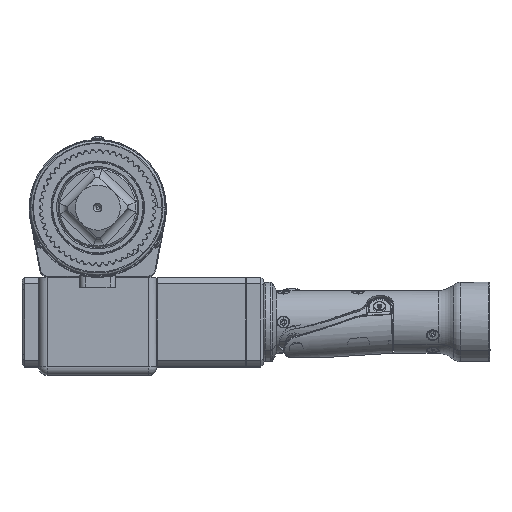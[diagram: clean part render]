
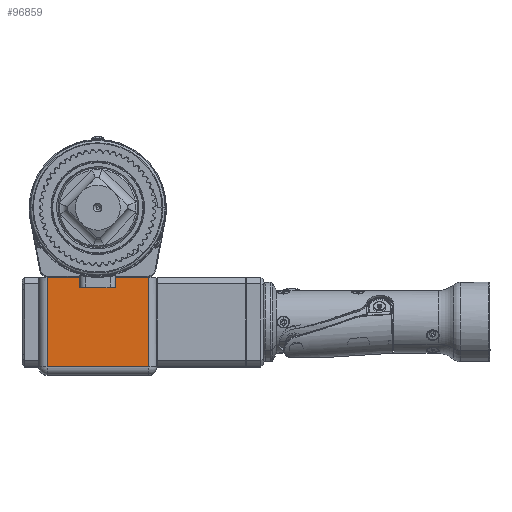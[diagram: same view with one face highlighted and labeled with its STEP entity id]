
A CAD part, top view. The second image highlights one B-rep face of the part: STEP entity #96859.
In plain terms, the highlighted planar face has unit normal (0, 0, 1).
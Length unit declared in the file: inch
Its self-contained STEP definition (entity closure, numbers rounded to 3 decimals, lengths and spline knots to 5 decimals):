
#1163 = VERTEX_POINT ( 'NONE', #150322 ) ;
#1167 = CARTESIAN_POINT ( 'NONE',  ( 1.3125, -1.53, 0.0005 ) ) ;
#1488 = DIRECTION ( 'NONE',  ( 1., 0., 0. ) ) ;
#6601 = VERTEX_POINT ( 'NONE', #14313 ) ;
#12293 = VECTOR ( 'NONE', #48335, 39.37008 ) ;
#14313 = CARTESIAN_POINT ( 'NONE',  ( 0.365, -1.77, 0.0005 ) ) ;
#15293 = CIRCLE ( 'NONE', #108341, 0.01 ) ;
#15933 = EDGE_CURVE ( 'NONE', #82866, #121478, #132069, .T. ) ;
#16108 = AXIS2_PLACEMENT_3D ( 'NONE', #32807, #21076, #153501 ) ;
#16991 = DIRECTION ( 'NONE',  ( 0., -1., 0. ) ) ;
#17871 = CARTESIAN_POINT ( 'NONE',  ( 1.125, -3.53, 0.0005 ) ) ;
#18048 = DIRECTION ( 'NONE',  ( -1., 0., 0. ) ) ;
#20010 = VECTOR ( 'NONE', #143164, 39.37008 ) ;
#21076 = DIRECTION ( 'NONE',  ( 0., 0., -1. ) ) ;
#21185 = VERTEX_POINT ( 'NONE', #137834 ) ;
#23167 = CARTESIAN_POINT ( 'NONE',  ( -0.365, -1.77, 0.0005 ) ) ;
#23510 = ORIENTED_EDGE ( 'NONE', *, *, #37775, .F. ) ;
#23793 = ORIENTED_EDGE ( 'NONE', *, *, #116251, .T. ) ;
#28734 = DIRECTION ( 'NONE',  ( 0., -1., 0. ) ) ;
#29498 = LINE ( 'NONE', #114563, #128610 ) ;
#30143 = CARTESIAN_POINT ( 'NONE',  ( 0.375, -1.53, 0.0005 ) ) ;
#32467 = EDGE_CURVE ( 'NONE', #137954, #1163, #41364, .T. ) ;
#32807 = CARTESIAN_POINT ( 'NONE',  ( 0.365, -1.76, 0.0005 ) ) ;
#33512 = CARTESIAN_POINT ( 'NONE',  ( 1.3125, -1.53, 0.0005 ) ) ;
#35771 = VECTOR ( 'NONE', #114429, 39.37008 ) ;
#37775 = EDGE_CURVE ( 'NONE', #115762, #6601, #61256, .T. ) ;
#39212 = LINE ( 'NONE', #87334, #62977 ) ;
#40297 = VECTOR ( 'NONE', #1488, 39.37008 ) ;
#41364 = LINE ( 'NONE', #17871, #87507 ) ;
#48335 = DIRECTION ( 'NONE',  ( 1., 0., 0. ) ) ;
#48724 = DIRECTION ( 'NONE',  ( 0., 1., 0. ) ) ;
#50252 = CARTESIAN_POINT ( 'NONE',  ( -1.125, -3.53, 0.0005 ) ) ;
#50439 = PLANE ( 'NONE',  #132388 ) ;
#50545 = ORIENTED_EDGE ( 'NONE', *, *, #127227, .F. ) ;
#50933 = EDGE_CURVE ( 'NONE', #88491, #150626, #134290, .T. ) ;
#53447 = CARTESIAN_POINT ( 'NONE',  ( -1.125, -1.53, 0.0005 ) ) ;
#60791 = EDGE_CURVE ( 'NONE', #82866, #137954, #136769, .T. ) ;
#61256 = LINE ( 'NONE', #155228, #40297 ) ;
#62977 = VECTOR ( 'NONE', #48724, 39.37008 ) ;
#63333 = EDGE_LOOP ( 'NONE', ( #23510, #23793, #120707, #85959, #63772, #140851, #102535, #96059, #50545, #104639 ) ) ;
#63772 = ORIENTED_EDGE ( 'NONE', *, *, #60791, .T. ) ;
#65219 = VERTEX_POINT ( 'NONE', #152850 ) ;
#69486 = DIRECTION ( 'NONE',  ( 1., 0., 0. ) ) ;
#71535 = FACE_OUTER_BOUND ( 'NONE', #63333, .T. ) ;
#74213 = CARTESIAN_POINT ( 'NONE',  ( 0.375, -1.53, 0.0005 ) ) ;
#82291 = CARTESIAN_POINT ( 'NONE',  ( -0.365, -1.76, 0.0005 ) ) ;
#82866 = VERTEX_POINT ( 'NONE', #53447 ) ;
#83845 = VECTOR ( 'NONE', #28734, 39.37008 ) ;
#85959 = ORIENTED_EDGE ( 'NONE', *, *, #15933, .F. ) ;
#87334 = CARTESIAN_POINT ( 'NONE',  ( 1.125, -1.56, 0.0005 ) ) ;
#87507 = VECTOR ( 'NONE', #69486, 39.37008 ) ;
#87667 = LINE ( 'NONE', #30143, #35771 ) ;
#88491 = VERTEX_POINT ( 'NONE', #74213 ) ;
#88686 = CIRCLE ( 'NONE', #16108, 0.01 ) ;
#96059 = ORIENTED_EDGE ( 'NONE', *, *, #50933, .F. ) ;
#96172 = DIRECTION ( 'NONE',  ( -1., 0., 0. ) ) ;
#96859 = ADVANCED_FACE ( 'NONE', ( #71535 ), #50439, .F. ) ;
#101228 = CARTESIAN_POINT ( 'NONE',  ( -1.125, -3.53, 0.0005 ) ) ;
#102535 = ORIENTED_EDGE ( 'NONE', *, *, #116196, .T. ) ;
#104639 = ORIENTED_EDGE ( 'NONE', *, *, #126960, .T. ) ;
#108341 = AXIS2_PLACEMENT_3D ( 'NONE', #82291, #137024, #18048 ) ;
#114429 = DIRECTION ( 'NONE',  ( 0., 1., 0. ) ) ;
#114563 = CARTESIAN_POINT ( 'NONE',  ( -0.375, -1.77, 0.0005 ) ) ;
#115762 = VERTEX_POINT ( 'NONE', #23167 ) ;
#116196 = EDGE_CURVE ( 'NONE', #1163, #150626, #39212, .T. ) ;
#116251 = EDGE_CURVE ( 'NONE', #115762, #65219, #15293, .T. ) ;
#120707 = ORIENTED_EDGE ( 'NONE', *, *, #136460, .F. ) ;
#121428 = CARTESIAN_POINT ( 'NONE',  ( -1.3125, -1.53, 0.0005 ) ) ;
#121478 = VERTEX_POINT ( 'NONE', #128357 ) ;
#124825 = CARTESIAN_POINT ( 'NONE',  ( 1.125, -1.53, 0.0005 ) ) ;
#126960 = EDGE_CURVE ( 'NONE', #21185, #6601, #88686, .T. ) ;
#127227 = EDGE_CURVE ( 'NONE', #21185, #88491, #87667, .T. ) ;
#128357 = CARTESIAN_POINT ( 'NONE',  ( -0.375, -1.53, 0.0005 ) ) ;
#128610 = VECTOR ( 'NONE', #16991, 39.37008 ) ;
#132069 = LINE ( 'NONE', #33512, #20010 ) ;
#132388 = AXIS2_PLACEMENT_3D ( 'NONE', #121428, #145922, #96172 ) ;
#134290 = LINE ( 'NONE', #1167, #12293 ) ;
#136460 = EDGE_CURVE ( 'NONE', #121478, #65219, #29498, .T. ) ;
#136769 = LINE ( 'NONE', #101228, #83845 ) ;
#137024 = DIRECTION ( 'NONE',  ( 0., 0., -1. ) ) ;
#137834 = CARTESIAN_POINT ( 'NONE',  ( 0.375, -1.76, 0.0005 ) ) ;
#137954 = VERTEX_POINT ( 'NONE', #50252 ) ;
#140851 = ORIENTED_EDGE ( 'NONE', *, *, #32467, .T. ) ;
#143164 = DIRECTION ( 'NONE',  ( 1., 0., 0. ) ) ;
#145922 = DIRECTION ( 'NONE',  ( 0., 0., -1. ) ) ;
#150322 = CARTESIAN_POINT ( 'NONE',  ( 1.125, -3.53, 0.0005 ) ) ;
#150626 = VERTEX_POINT ( 'NONE', #124825 ) ;
#152850 = CARTESIAN_POINT ( 'NONE',  ( -0.375, -1.76, 0.0005 ) ) ;
#153501 = DIRECTION ( 'NONE',  ( -1., 0., 0. ) ) ;
#155228 = CARTESIAN_POINT ( 'NONE',  ( 0.375, -1.77, 0.0005 ) ) ;
